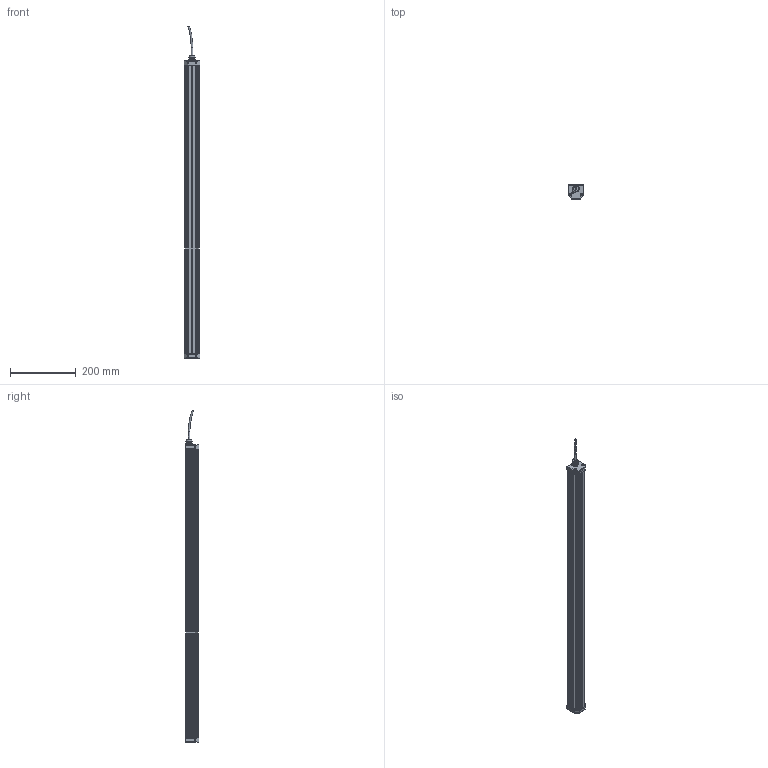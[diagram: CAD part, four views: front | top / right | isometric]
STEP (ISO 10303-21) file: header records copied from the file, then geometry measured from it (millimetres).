
FILE_DESCRIPTION (( 'STEP AP214' ), '1' );
FILE_NAME ('Stableuchte_890mm.STEP', '2021-09-08T11:29:40', ( '' ), ( '' ), 'SwSTEP 2.0', 'SolidWorks 2021', '' );
FILE_SCHEMA (( 'AUTOMOTIVE_DESIGN' ));
Length unit declared in the file: millimetre
Products named in the file (7): Stableuchte_890mm; Stableuchte_Endkappe_mit_Gewinde; Stableuchte_Endkappe_anderes_Ende; Stableuchte_890r; Scheibe8; Kabelanbindung; Schraube_Lampe
Assembly tree (9 placements, depth 2):
  Stableuchte_890mm
    Stableuchte_890r
    Scheibe8
    Kabelanbindung
    Stableuchte_Endkappe_mit_Gewinde
    Stableuchte_Endkappe_anderes_Ende
    Schraube_Lampe  x4
Bounding box: 48 x 42 x 1006.29 mm (x, y, z)
Volume: 883041.4 mm3; surface area: 419209 mm2
Topology: 9 solids, 9 shells, 512 faces, 1394 edges, 862 vertices
Faces by surface type: cylinder 227, plane 219, torus 26, cone 16, bspline 16, sphere 8
Entity records: 15849 total; most frequent: CARTESIAN_POINT 3135, DIRECTION 2588, ORIENTED_EDGE 2456, EDGE_CURVE 1228, AXIS2_PLACEMENT_3D 939, VERTEX_POINT 766, VECTOR 710, LINE 710
